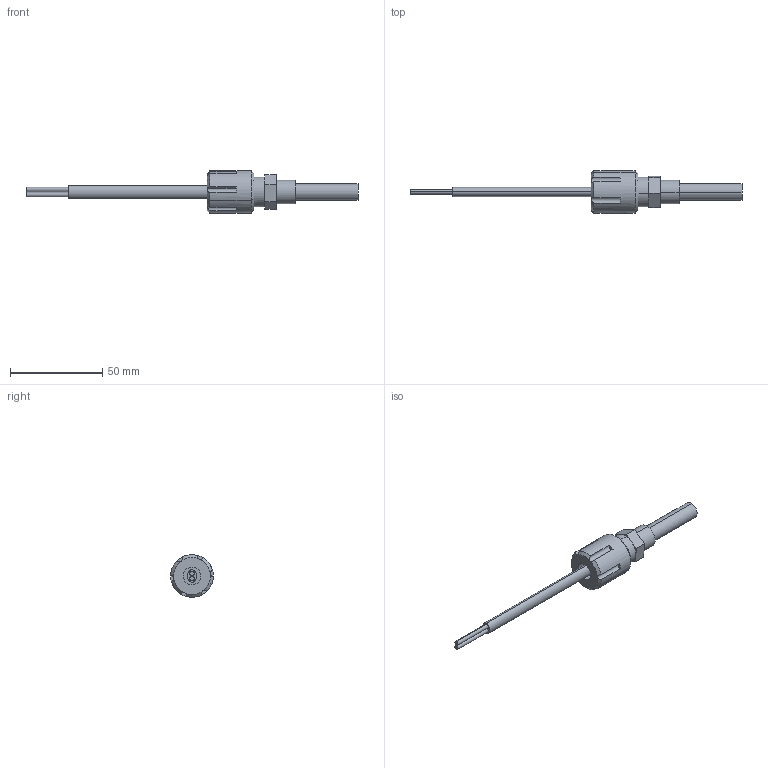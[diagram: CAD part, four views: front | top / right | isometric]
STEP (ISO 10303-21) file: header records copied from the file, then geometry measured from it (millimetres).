
FILE_DESCRIPTION (( 'STEP AP214' ), '1' );
FILE_NAME ('sf-fiber-optic-stroke-detect.STEP', '2012-11-21T22:43:47', ( '' ), ( '' ), 'SwSTEP 2.0', 'SolidWorks 2012', '' );
FILE_SCHEMA (( 'AUTOMOTIVE_DESIGN' ));
Length unit declared in the file: inch
Products named in the file (1): sf-fiber-optic-stroke-detect
Bounding box: 180.21 x 23.11 x 23.1 mm (x, y, z)
Volume: 21545 mm3; surface area: 10585.9 mm2
Topology: 4 solids, 4 shells, 70 faces, 158 edges, 101 vertices
Faces by surface type: plane 35, cylinder 24, cone 9, bspline 2
Entity records: 2595 total; most frequent: CARTESIAN_POINT 542, DIRECTION 355, ORIENTED_EDGE 316, EDGE_CURVE 158, AXIS2_PLACEMENT_3D 146, VERTEX_POINT 101, CIRCLE 77, EDGE_LOOP 75
